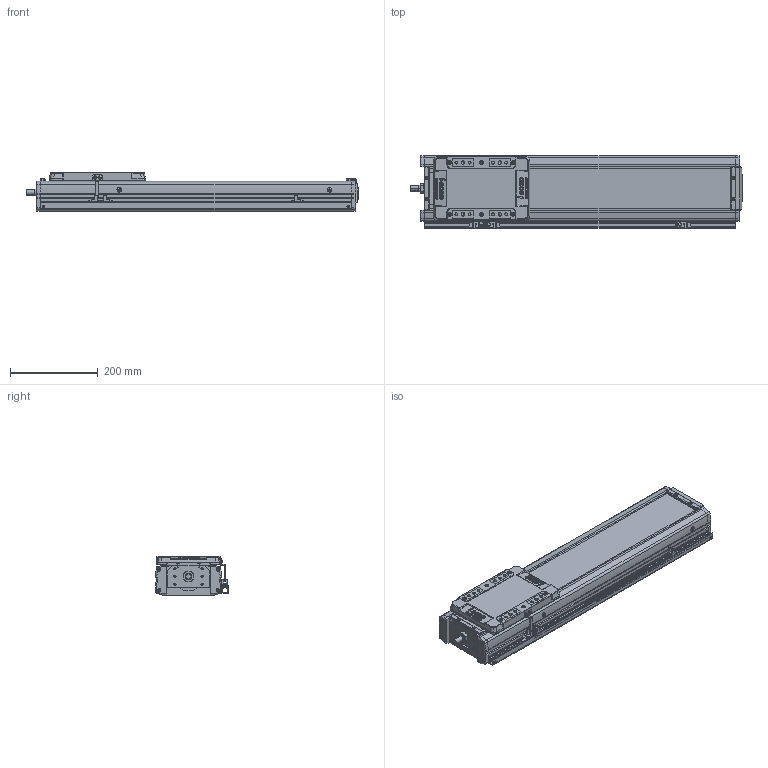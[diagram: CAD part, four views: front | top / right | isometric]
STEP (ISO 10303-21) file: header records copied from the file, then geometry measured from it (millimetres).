
FILE_DESCRIPTION(('STEP AP214'),'1');
FILE_NAME('Z:/Web/3D/SAN150/2013.04 (STP.)/SAN150ㅁㅁ-450+3SR.stp','2013-05-07T23:35:44',(' '),(' '),'Spatial InterOp 3D',' ',' ');
FILE_SCHEMA(('automotive_design'));
Length unit declared in the file: millimetre
Products named in the file (53): SLBL-SAN150; SLCV-SAN150; FHCS M4.0 x 8.0; BHCS M4.0 x 10.0; SFX-SAN150; RRCV-SAN150; FRBL-SAN150; Spacer; RN15; FRCV-SAN150; Screw 20; BASE-SAN150-000L ; SUS COVER; 스크루 : Round - M5.0 x 6.0; M3.0 x 6.0; SRL-16x17-360L; SGD-SAN150; EE-SX674; SBK-SX674-352; 스크루 : Round - M3.0 x 6.0
Bounding box: 758 x 166 x 90 mm (x, y, z)
Volume: 4429143.3 mm3; surface area: 900082.9 mm2
Topology: 53 solids, 53 shells, 2486 faces, 6415 edges, 4128 vertices
Faces by surface type: plane 1338, cylinder 797, cone 250, sphere 68, bspline 21, torus 12
Entity records: 98459 total; most frequent: CARTESIAN_POINT 15572, DIRECTION 13494, ORIENTED_EDGE 12630, EDGE_CURVE 6315, AXIS2_PLACEMENT_3D 4745, VERTEX_POINT 4128, LINE 4004, VECTOR 4004
